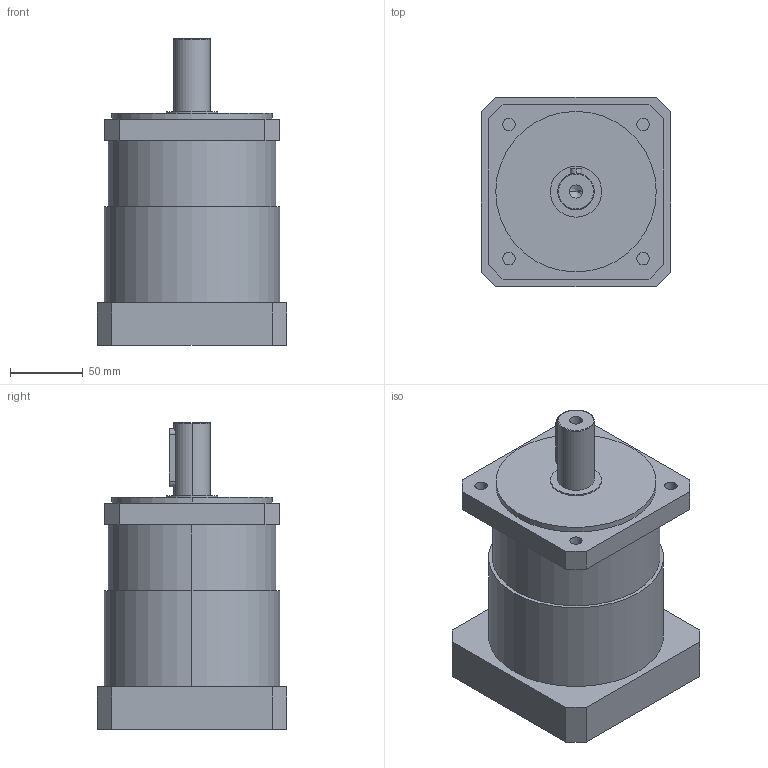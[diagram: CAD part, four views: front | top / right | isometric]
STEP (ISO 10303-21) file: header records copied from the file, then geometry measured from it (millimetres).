
FILE_DESCRIPTION (( 'STEP AP203' ), '1' );
FILE_NAME ('120MM熬厒19P 85W 131.95R.STEP', '2019-10-25T01:19:40', ( 'China' ), ( 'Home' ), 'SwSTEP 2.0', 'SolidWorks 2016', '' );
FILE_SCHEMA (( 'CONFIG_CONTROL_DESIGN' ));
Length unit declared in the file: millimetre
Products named in the file (1): 120MM熬厒19P 85W 131.95R
Bounding box: 130 x 130 x 210 mm (x, y, z)
Volume: 1904887.5 mm3; surface area: 121510.7 mm2
Topology: 2 solids, 2 shells, 91 faces, 211 edges, 129 vertices
Faces by surface type: cylinder 39, plane 32, cone 18, bspline 2
Entity records: 2636 total; most frequent: DIRECTION 467, CARTESIAN_POINT 458, ORIENTED_EDGE 402, EDGE_CURVE 201, AXIS2_PLACEMENT_3D 178, VERTEX_POINT 129, EDGE_LOOP 114, LINE 111
